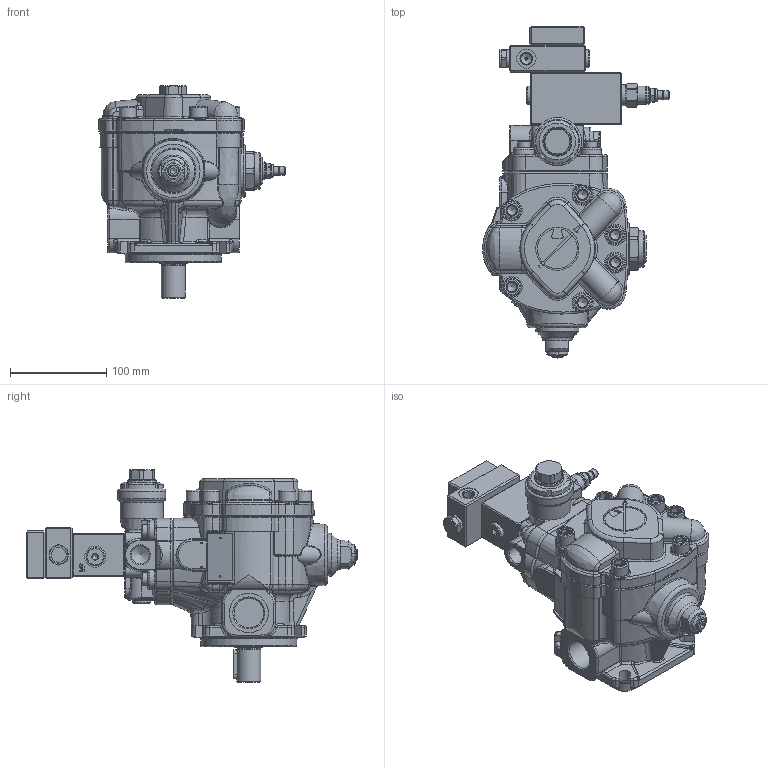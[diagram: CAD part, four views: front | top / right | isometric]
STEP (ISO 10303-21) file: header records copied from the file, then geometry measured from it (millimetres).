
FILE_DESCRIPTION(/* description */ (''),/* implementation_level */ '2;1');
FILE_NAME(/* name */ 'W:\Tecnico\Archivio\Berarma\Dimensioni Pompe\3D Export\Montaggio 3D semplificato\PLP-PHP 1\PHP 1 PCLS002.stp',/* time_stamp */ '2018-10-09T15:03:34+02:00',/* author */ ('marcop'),/* organization */ (''),/* preprocessor_version */ 'ST-DEVELOPER v17',/* originating_system */ 'Autodesk Inventor 2018',/* authorisation */ '');
FILE_SCHEMA (('AUTOMOTIVE_DESIGN { 1 0 10303 214 3 1 1 }'));
Products named in the file (1): PLP-PHP 1_Shrinkwrap_1
Bounding box: 194.5 x 345.7 x 221 mm (x, y, z)
Volume: 2765434 mm3; surface area: 310611.4 mm2
Topology: 2 solids, 2 shells, 2405 faces, 6264 edges, 3918 vertices
Faces by surface type: plane 968, cylinder 593, bspline 364, torus 232, cone 225, sphere 23
Full cylindrical faces by diameter (mm): 1.7 x4, 2.5 x3, 3 x1, 4 x5, 5 x7, 6 x3, 6.5 x1, 7.2 x13, 7.671 x2, 8 x2, 8.5 x4, 9 x4, 9.347 x2, 9.5 x1, 10 x1, 11.445 x5, 12 x4, 13 x4, 13.487 x1, 13.5 x1, 13.767 x2, 14 x3, 14.63 x1, 15 x1, 15.5 x2, 16 x2, 17.399 x1, 17.5 x1, 17.78 x1, 18 x7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
Entity records: 89506 total; most frequent: CARTESIAN_POINT 30562, ORIENTED_EDGE 12432, DIRECTION 11171, EDGE_CURVE 6216, AXIS2_PLACEMENT_3D 4336, VERTEX_POINT 3918, EDGE_LOOP 2590, LINE 2499
